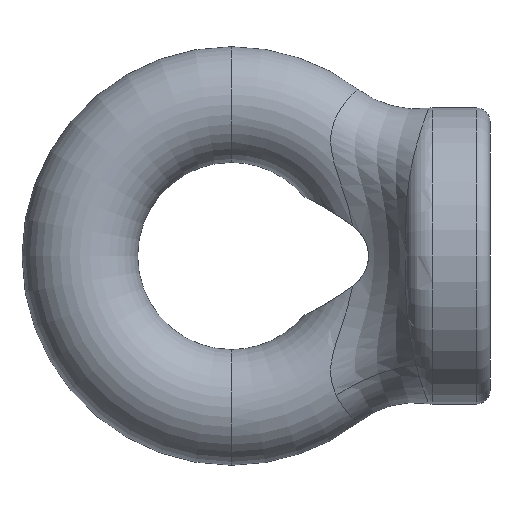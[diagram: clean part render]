
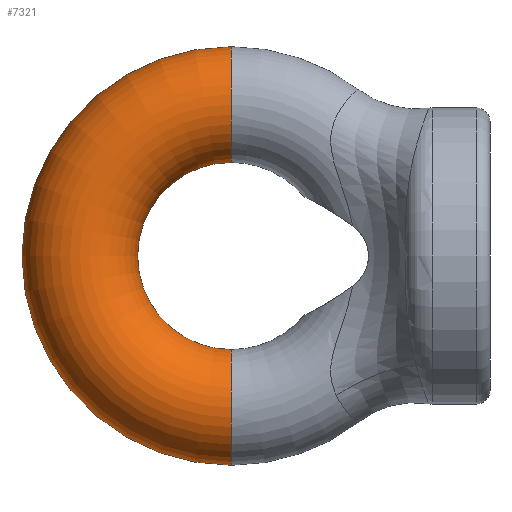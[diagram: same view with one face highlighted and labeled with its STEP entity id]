
A CAD part, front view. The second image highlights one B-rep face of the part: STEP entity #7321.
In plain terms, the highlighted toroidal (fillet/blend) face has major radius 44.5 mm and minor radius 17 mm.
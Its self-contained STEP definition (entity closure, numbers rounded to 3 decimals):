
#7318 = EDGE_CURVE ( 'NONE', #7926, #8064, #7997, .T. ) ;
#7321 = ADVANCED_FACE ( 'NONE', ( #7990 ), #7988, .T. ) ;
#7425 = EDGE_LOOP ( 'NONE', ( #7426, #7427, #7428, #7429 ) ) ;
#7426 = ORIENTED_EDGE ( 'NONE', *, *, #8072, .F. ) ;
#7427 = ORIENTED_EDGE ( 'NONE', *, *, #7318, .F. ) ;
#7428 = ORIENTED_EDGE ( 'NONE', *, *, #8053, .T. ) ;
#7429 = ORIENTED_EDGE ( 'NONE', *, *, #7430, .T. ) ;
#7430 = EDGE_CURVE ( 'NONE', #7557, #7551, #23222, .T. ) ;
#7551 = VERTEX_POINT ( 'NONE', #23389 ) ;
#7557 = VERTEX_POINT ( 'NONE', #23377 ) ;
#7926 = VERTEX_POINT ( 'NONE', #24328 ) ;
#7978 = DIRECTION ( 'NONE',  ( 0., 0., 1. ) ) ;
#7979 = DIRECTION ( 'NONE',  ( 0., 1., 0. ) ) ;
#7980 = CARTESIAN_POINT ( 'NONE',  ( 0., 0., 0. ) ) ;
#7982 = AXIS2_PLACEMENT_3D ( 'NONE', #7980, #7979, #7978 ) ;
#7988 = TOROIDAL_SURFACE ( 'NONE', #7982, 44.5, 17. ) ;
#7990 = FACE_OUTER_BOUND ( 'NONE', #7425, .T. ) ;
#7992 = DIRECTION ( 'NONE',  ( 0., 0., -1. ) ) ;
#7994 = DIRECTION ( 'NONE',  ( 1., 0., 0. ) ) ;
#7995 = AXIS2_PLACEMENT_3D ( 'NONE', #8000, #7994, #7992 ) ;
#7997 = CIRCLE ( 'NONE', #7995, 17. ) ;
#8000 = CARTESIAN_POINT ( 'NONE',  ( 0., 0., -44.5 ) ) ;
#8053 = EDGE_CURVE ( 'NONE', #7926, #7557, #24110, .T. ) ;
#8064 = VERTEX_POINT ( 'NONE', #24531 ) ;
#8072 = EDGE_CURVE ( 'NONE', #8064, #7551, #24514, .T. ) ;
#23218 = DIRECTION ( 'NONE',  ( 0., 0., 1. ) ) ;
#23219 = DIRECTION ( 'NONE',  ( -1., 0., 0. ) ) ;
#23220 = CARTESIAN_POINT ( 'NONE',  ( 0., 0., 44.5 ) ) ;
#23221 = AXIS2_PLACEMENT_3D ( 'NONE', #23220, #23219, #23218 ) ;
#23222 = CIRCLE ( 'NONE', #23221, 17. ) ;
#23377 = CARTESIAN_POINT ( 'NONE',  ( 0., 0., 27.5 ) ) ;
#23389 = CARTESIAN_POINT ( 'NONE',  ( 0., 0., 61.5 ) ) ;
#24109 = AXIS2_PLACEMENT_3D ( 'NONE', #24299, #24302, #24301 ) ;
#24110 = CIRCLE ( 'NONE', #24109, 27.5 ) ;
#24299 = CARTESIAN_POINT ( 'NONE',  ( 0., 0., 0. ) ) ;
#24301 = DIRECTION ( 'NONE',  ( 0., 0., 1. ) ) ;
#24302 = DIRECTION ( 'NONE',  ( 0., 1., 0. ) ) ;
#24328 = CARTESIAN_POINT ( 'NONE',  ( 0., 0., -27.5 ) ) ;
#24510 = DIRECTION ( 'NONE',  ( 0., 0., 1. ) ) ;
#24511 = DIRECTION ( 'NONE',  ( 0., 1., 0. ) ) ;
#24512 = CARTESIAN_POINT ( 'NONE',  ( 0., 0., 0. ) ) ;
#24513 = AXIS2_PLACEMENT_3D ( 'NONE', #24512, #24511, #24510 ) ;
#24514 = CIRCLE ( 'NONE', #24513, 61.5 ) ;
#24531 = CARTESIAN_POINT ( 'NONE',  ( 0., 0., -61.5 ) ) ;
